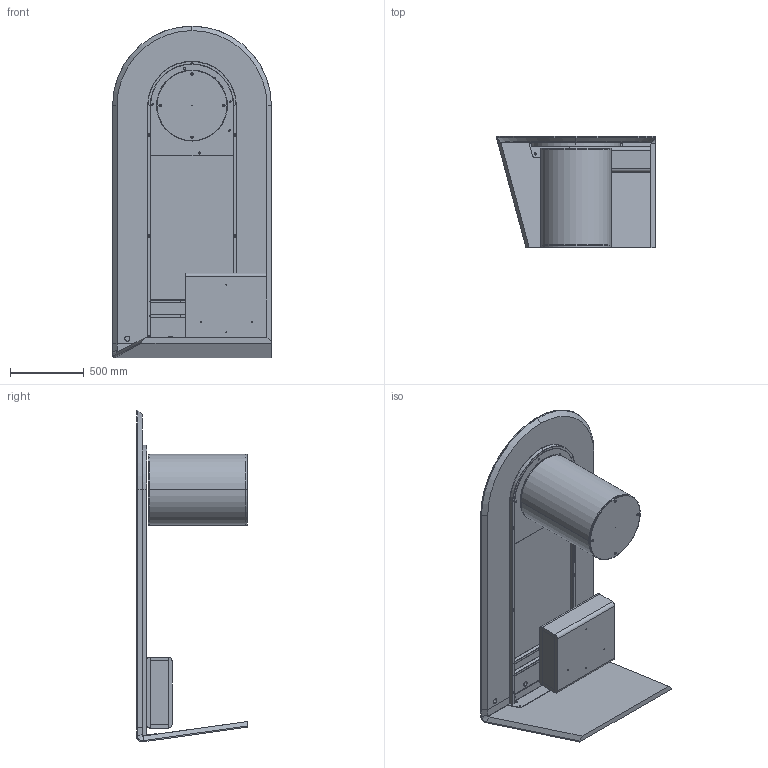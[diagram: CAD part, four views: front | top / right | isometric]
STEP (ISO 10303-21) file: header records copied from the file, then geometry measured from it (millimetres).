
FILE_DESCRIPTION (( 'STEP AP203' ), '1' );
FILE_NAME ('CD70C_Cilindro Desk_225x108x75h_Ceramic.STEP', '2024-08-06T07:07:29', ( '' ), ( '' ), 'SwSTEP 2.0', 'SolidWorks 2022', '' );
FILE_SCHEMA (( 'CONFIG_CONTROL_DESIGN' ));
Length unit declared in the file: millimetre
Products named in the file (15): TTAV09_03-02-PIASTRA forata per DESK_ver. Onda_Rotolo; DSK000000CAS-02-DESK CASSETTO COMPLETO_Variante per desk; CIB000000-00-CILINDRO BASE D.480mm_SENZA PIASTRA; K70CMX-00-TOP PER DESK  215X107.6 CERAMICA; M8xXXmm_hex_M8X20mm; TTAV09_02-03-Staffa a L supporto telaio; CAS001-00-Struttura Cassetto_Default<A macchina>; CIB000000_01-00-struttura cilindro D.480mm; TTAV09_01-04-Struttura tubolare per telaio DESK_Default<A macchina>; DSK000000STR-00-DESK STRUTTURA IN LEGNO; CIB000000_02-01-ZAVORRA IN FERRO D.480mm; CAS003-00-Frontalino Cassetto; TTAV09-04-TELAIO PER SCRIVANIA DESK_conf. Cilindro; Freccia_default specchiata; CD70C_Cilindro Desk_225x108x75h_Ceramic
Assembly tree (17 placements, depth 3):
  CD70C_Cilindro Desk_225x108x75h_Ceramic
    DSK000000STR-00-DESK STRUTTURA IN LEGNO
    K70CMX-00-TOP PER DESK  215X107.6 CERAMICA
    CIB000000-00-CILINDRO BASE D.480mm_SENZA PIASTRA
      CIB000000_01-00-struttura cilindro D.480mm
      CIB000000_02-01-ZAVORRA IN FERRO D.480mm
      M8xXXmm_hex_M8X20mm  x4
    DSK000000CAS-02-DESK CASSETTO COMPLETO_Variante per desk
      CAS001-00-Struttura Cassetto_Default<A macchina>
      CAS003-00-Frontalino Cassetto
    TTAV09-04-TELAIO PER SCRIVANIA DESK_conf. Cilindro
      TTAV09_02-03-Staffa a L supporto telaio
      TTAV09_01-04-Struttura tubolare per telaio DESK_Default<A macchina>
      TTAV09_03-02-PIASTRA forata per DESK_ver. Onda_Rotolo
    Freccia_default specchiata
Bounding box: 1075 x 750 x 2245 mm (x, y, z)
Volume: 133959027.5 mm3; surface area: 16708126.8 mm2
Topology: 24 solids, 24 shells, 796 faces, 1988 edges, 1200 vertices
Faces by surface type: cylinder 360, plane 297, cone 96, torus 24, sphere 14, bspline 5
Entity records: 24088 total; most frequent: CARTESIAN_POINT 5169, DIRECTION 3788, ORIENTED_EDGE 3428, EDGE_CURVE 1714, AXIS2_PLACEMENT_3D 1427, VERTEX_POINT 1091, VECTOR 934, LINE 934
